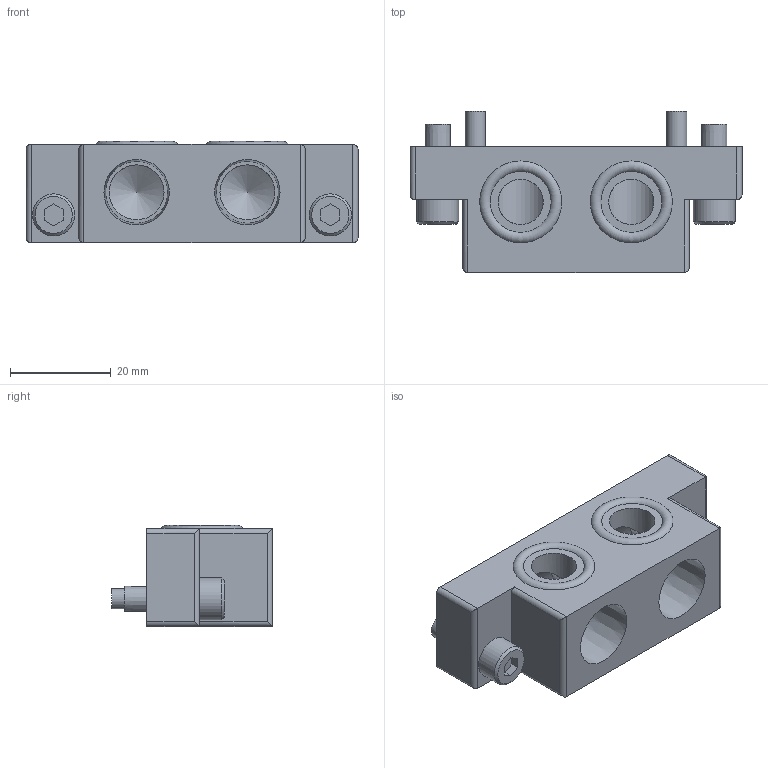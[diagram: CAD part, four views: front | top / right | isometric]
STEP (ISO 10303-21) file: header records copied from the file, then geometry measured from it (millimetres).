
FILE_DESCRIPTION(('STEP AP214'),'1');
FILE_NAME('KHB-45_300HS-EP82_ver1.stp','2026-04-27T07:49:33',(' '),(' '),'Spatial InterOp 3D',' ',' ');
FILE_SCHEMA(('AUTOMOTIVE_DESIGN { 1 0 10303 214 1 1 1 1 }'));
Length unit declared in the file: millimetre
Products named in the file (3): KHB-45~300HS-EP82_ver1; パーツ1
Assembly tree (2 placements, depth 2):
  KHB-45~300HS-EP82_ver1
    パーツ1
    パーツ1
Bounding box: 66 x 32 x 20.1 mm (x, y, z)
Volume: 21907.4 mm3; surface area: 9175.2 mm2
Topology: 2 solids, 3 shells, 79 faces, 174 edges, 113 vertices
Faces by surface type: plane 42, cylinder 27, cone 8, torus 2
Full cylindrical faces by diameter (mm): 4 x3, 5 x2, 5.5 x2, 8.385 x2, 9 x2, 10.9 x2
Entity records: 2820 total; most frequent: CARTESIAN_POINT 490, DIRECTION 356, ORIENTED_EDGE 276, AXIS2_PLACEMENT_3D 138, EDGE_CURVE 138, EDGE_LOOP 120, VERTEX_POINT 104, FACE_OUTER_BOUND 94
